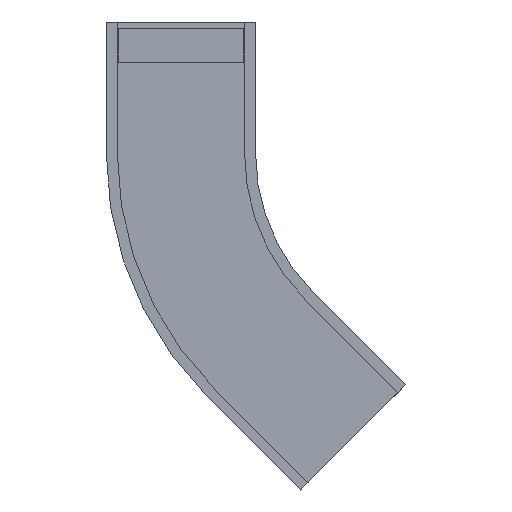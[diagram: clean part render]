
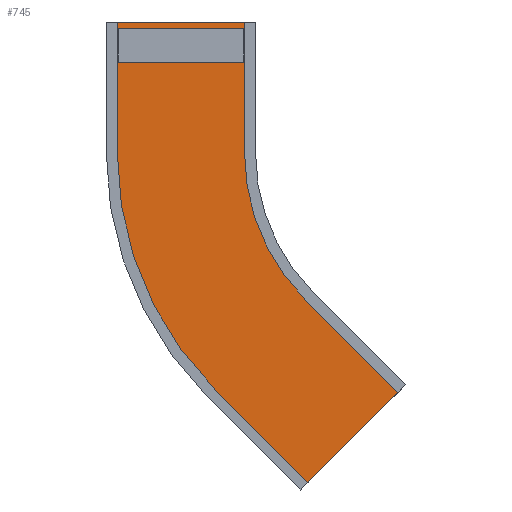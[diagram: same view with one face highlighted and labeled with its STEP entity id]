
A CAD part, front view. The second image highlights one B-rep face of the part: STEP entity #745.
In plain terms, the highlighted planar face has unit normal (0, -1, 0).
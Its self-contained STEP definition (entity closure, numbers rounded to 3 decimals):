
#42 = CARTESIAN_POINT ( 'NONE',  ( 111., -57.525, 0. ) ) ;
#49 = CARTESIAN_POINT ( 'NONE',  ( 198.575, -57.525, -411.425 ) ) ;
#69 = CARTESIAN_POINT ( 'NONE',  ( 183.019, -57.525, -709.824 ) ) ;
#312 = CARTESIAN_POINT ( 'NONE',  ( 41.597, -57.525, -568.403 ) ) ;
#355 = CARTESIAN_POINT ( 'NONE',  ( -111., -57.525, -200. ) ) ;
#539 = CARTESIAN_POINT ( 'NONE',  ( 339.996, -57.525, -552.846 ) ) ;
#577 = CARTESIAN_POINT ( 'NONE',  ( 111., -57.525, -200. ) ) ;
#594 = CARTESIAN_POINT ( 'NONE',  ( -111., -57.525, 0. ) ) ;
#745 = ADVANCED_FACE ( 'NONE', ( #2336 ), #1113, .T. ) ;
#1113 = PLANE ( 'NONE',  #2602 ) ;
#1114 = CARTESIAN_POINT ( 'NONE',  ( 111., -57.525, -200. ) ) ;
#1117 = DIRECTION ( 'NONE',  ( 0., -1., 0. ) ) ;
#1118 = DIRECTION ( 'NONE',  ( 1., 0., 0. ) ) ;
#1230 = VERTEX_POINT ( 'NONE', #42 ) ;
#1231 = VERTEX_POINT ( 'NONE', #594 ) ;
#1275 = VERTEX_POINT ( 'NONE', #69 ) ;
#1279 = VERTEX_POINT ( 'NONE', #49 ) ;
#1325 = VERTEX_POINT ( 'NONE', #577 ) ;
#1342 = VERTEX_POINT ( 'NONE', #539 ) ;
#1411 = VERTEX_POINT ( 'NONE', #355 ) ;
#1430 = VERTEX_POINT ( 'NONE', #312 ) ;
#1839 = ORIENTED_EDGE ( 'NONE', *, *, #5605, .F. ) ;
#1842 = ORIENTED_EDGE ( 'NONE', *, *, #5781, .T. ) ;
#1844 = ORIENTED_EDGE ( 'NONE', *, *, #5784, .T. ) ;
#1845 = ORIENTED_EDGE ( 'NONE', *, *, #5609, .T. ) ;
#1850 = ORIENTED_EDGE ( 'NONE', *, *, #5782, .F. ) ;
#1860 = ORIENTED_EDGE ( 'NONE', *, *, #2757, .F. ) ;
#1862 = ORIENTED_EDGE ( 'NONE', *, *, #2558, .T. ) ;
#1864 = ORIENTED_EDGE ( 'NONE', *, *, #5783, .F. ) ;
#2336 = FACE_OUTER_BOUND ( 'NONE', #3865, .T. ) ;
#2449 = AXIS2_PLACEMENT_3D ( 'NONE', #5101, #5097, #5094 ) ;
#2459 = AXIS2_PLACEMENT_3D ( 'NONE', #5064, #5062, #5061 ) ;
#2558 = EDGE_CURVE ( 'NONE', #1430, #1275, #6260, .T. ) ;
#2602 = AXIS2_PLACEMENT_3D ( 'NONE', #1114, #1117, #1118 ) ;
#2757 = EDGE_CURVE ( 'NONE', #1279, #1342, #4798, .T. ) ;
#3499 = DIRECTION ( 'NONE',  ( 0.707, 0., 0.707 ) ) ;
#3500 = CARTESIAN_POINT ( 'NONE',  ( 339.996, -57.525, -552.846 ) ) ;
#3501 = DIRECTION ( 'NONE',  ( 0., 0., 1. ) ) ;
#3502 = CARTESIAN_POINT ( 'NONE',  ( -111., -57.525, -200. ) ) ;
#3503 = DIRECTION ( 'NONE',  ( 1., 0., 0. ) ) ;
#3504 = CARTESIAN_POINT ( 'NONE',  ( 111., -57.525, 0. ) ) ;
#3505 = DIRECTION ( 'NONE',  ( 0., 0., 1. ) ) ;
#3506 = CARTESIAN_POINT ( 'NONE',  ( 111., -57.525, -200. ) ) ;
#3865 = EDGE_LOOP ( 'NONE', ( #1850, #1864, #1845, #1862, #1844, #1860, #1839, #1842 ) ) ;
#4316 = VECTOR ( 'NONE', #3499, 1000. ) ;
#4318 = LINE ( 'NONE', #3500, #4316 ) ;
#4319 = VECTOR ( 'NONE', #3501, 1000. ) ;
#4320 = LINE ( 'NONE', #3502, #4319 ) ;
#4321 = VECTOR ( 'NONE', #3503, 1000. ) ;
#4322 = LINE ( 'NONE', #3504, #4321 ) ;
#4323 = VECTOR ( 'NONE', #3505, 1000. ) ;
#4324 = LINE ( 'NONE', #3506, #4323 ) ;
#4621 = CIRCLE ( 'NONE', #2459, 521. ) ;
#4627 = CIRCLE ( 'NONE', #2449, 299. ) ;
#4796 = VECTOR ( 'NONE', #5329, 1000. ) ;
#4798 = LINE ( 'NONE', #5332, #4796 ) ;
#5061 = DIRECTION ( 'NONE',  ( 0., 0., -1. ) ) ;
#5062 = DIRECTION ( 'NONE',  ( 0., -1., 0. ) ) ;
#5064 = CARTESIAN_POINT ( 'NONE',  ( 410., -57.525, -200. ) ) ;
#5094 = DIRECTION ( 'NONE',  ( 0., 0., -1. ) ) ;
#5097 = DIRECTION ( 'NONE',  ( 0., -1., 0. ) ) ;
#5101 = CARTESIAN_POINT ( 'NONE',  ( 410., -57.525, -200. ) ) ;
#5329 = DIRECTION ( 'NONE',  ( 0.707, 0., -0.707 ) ) ;
#5332 = CARTESIAN_POINT ( 'NONE',  ( 198.575, -57.525, -411.425 ) ) ;
#5605 = EDGE_CURVE ( 'NONE', #1325, #1279, #4627, .T. ) ;
#5609 = EDGE_CURVE ( 'NONE', #1411, #1430, #4621, .T. ) ;
#5781 = EDGE_CURVE ( 'NONE', #1325, #1230, #4324, .T. ) ;
#5782 = EDGE_CURVE ( 'NONE', #1231, #1230, #4322, .T. ) ;
#5783 = EDGE_CURVE ( 'NONE', #1411, #1231, #4320, .T. ) ;
#5784 = EDGE_CURVE ( 'NONE', #1275, #1342, #4318, .T. ) ;
#6010 = DIRECTION ( 'NONE',  ( 0.707, 0., -0.707 ) ) ;
#6011 = CARTESIAN_POINT ( 'NONE',  ( 41.597, -57.525, -568.403 ) ) ;
#6259 = VECTOR ( 'NONE', #6010, 1000. ) ;
#6260 = LINE ( 'NONE', #6011, #6259 ) ;
